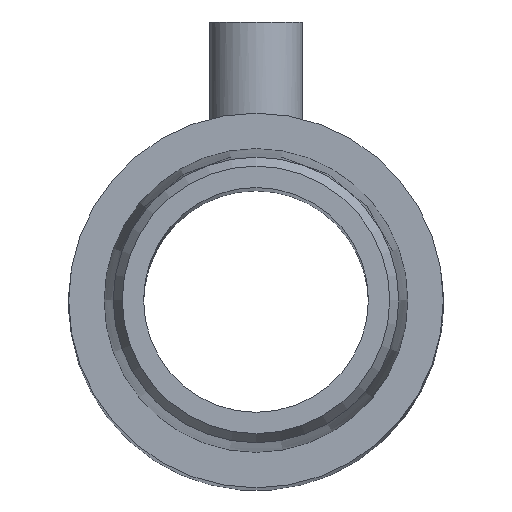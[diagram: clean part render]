
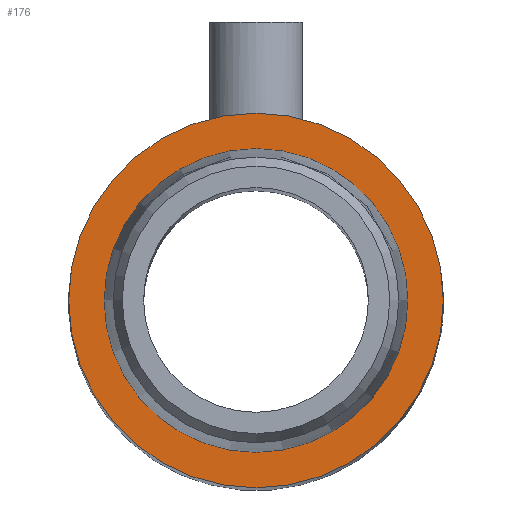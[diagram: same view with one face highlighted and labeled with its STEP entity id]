
A CAD part, top view. The second image highlights one B-rep face of the part: STEP entity #176.
In plain terms, the highlighted planar face has unit normal (0, 0, 1).
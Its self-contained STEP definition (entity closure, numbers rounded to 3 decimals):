
#84 = DIRECTION ( 'NONE',  ( 1., 0., 0. ) ) ;
#110 = AXIS2_PLACEMENT_3D ( 'NONE', #113, #289, #456 ) ;
#113 = CARTESIAN_POINT ( 'NONE',  ( 0., 0., 52. ) ) ;
#119 = AXIS2_PLACEMENT_3D ( 'NONE', #328, #151, #498 ) ;
#145 = CIRCLE ( 'NONE', #110, 4.864 ) ;
#149 = CARTESIAN_POINT ( 'NONE',  ( 4.864, 0., 52. ) ) ;
#151 = DIRECTION ( 'NONE',  ( 0., 0., -1. ) ) ;
#164 = CIRCLE ( 'NONE', #260, 6. ) ;
#176 = ADVANCED_FACE ( 'NONE', ( #371, #454 ), #541, .F. ) ;
#204 = EDGE_CURVE ( 'NONE', #370, #370, #145, .T. ) ;
#225 = EDGE_LOOP ( 'NONE', ( #357 ) ) ;
#260 = AXIS2_PLACEMENT_3D ( 'NONE', #470, #431, #84 ) ;
#289 = DIRECTION ( 'NONE',  ( 0., 0., 1. ) ) ;
#328 = CARTESIAN_POINT ( 'NONE',  ( 0., 6., 52. ) ) ;
#357 = ORIENTED_EDGE ( 'NONE', *, *, #204, .F. ) ;
#364 = EDGE_CURVE ( 'NONE', #495, #495, #164, .T. ) ;
#370 = VERTEX_POINT ( 'NONE', #149 ) ;
#371 = FACE_BOUND ( 'NONE', #225, .T. ) ;
#391 = ORIENTED_EDGE ( 'NONE', *, *, #364, .T. ) ;
#431 = DIRECTION ( 'NONE',  ( 0., 0., 1. ) ) ;
#454 = FACE_OUTER_BOUND ( 'NONE', #515, .T. ) ;
#456 = DIRECTION ( 'NONE',  ( 1., 0., 0. ) ) ;
#470 = CARTESIAN_POINT ( 'NONE',  ( 0., 0., 52. ) ) ;
#495 = VERTEX_POINT ( 'NONE', #532 ) ;
#498 = DIRECTION ( 'NONE',  ( -1., 0., 0. ) ) ;
#515 = EDGE_LOOP ( 'NONE', ( #391 ) ) ;
#532 = CARTESIAN_POINT ( 'NONE',  ( 6., 0., 52. ) ) ;
#541 = PLANE ( 'NONE',  #119 ) ;
